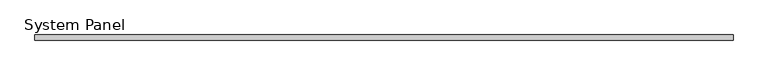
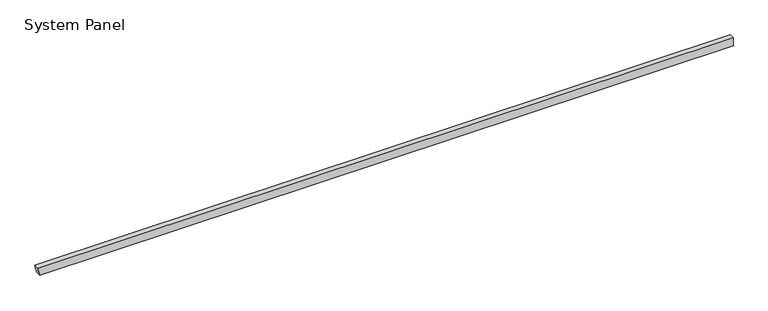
"""IFC4 building model written with IfcOpenShell, lengths in millimetres: plate geometry, System Panel : Equitilt_FlameGuard_50mm_Plain_Surfmist."""

from ifc_helpers import new_model, si_unit, frame, origin, place, context, project, spatial, polyline, outline, extrude, source, transform, mapped, element, save


def system_panel_4883f5bf(model_context):
    return source(origin(), model_context, "Body", "SweptSolid", [
        extrude(outline(polyline([(0.0, -3377.6149856), (0.0, 3395.0), (79.9704237, 3395.0), (79.9704237, -3395.0), (0.0, -3377.6149856)])), frame((0.0, -50.0, 0.0), z_axis=(0.0, 1.0, 0.0), x_axis=(0.0, 0.0, 1.0)), (0.0, 0.0, 1.0), 50.0),
    ])


if __name__ == "__main__":
    model = new_model("IFC4")
    model_context = context("Model", 3, world=origin())
    ifc_project = project(units=[si_unit("LENGTHUNIT", "METRE", prefix="MILLI")], contexts=[model_context])
    site = spatial("IfcSite", under=ifc_project)
    building = spatial("IfcBuilding", under=site)
    placement = place(None, origin())
    system_panel_shape = system_panel_4883f5bf(model_context)
    element("IfcPlate", 1, ObjectType="System Panel : Equitilt_FlameGuard_50mm_Plain_Surfmist", at=placement, inside=building, context=model_context, shape_type="MappedRepresentation", body=[
        mapped(system_panel_shape, transform((0.0, 0.0, 0.0), x_axis=(1.0, 0.0, 0.0), y_axis=(0.0, 1.0, 0.0), z_axis=(0.0, 0.0, 1.0))),
    ])
    save(model, "model.ifc")
